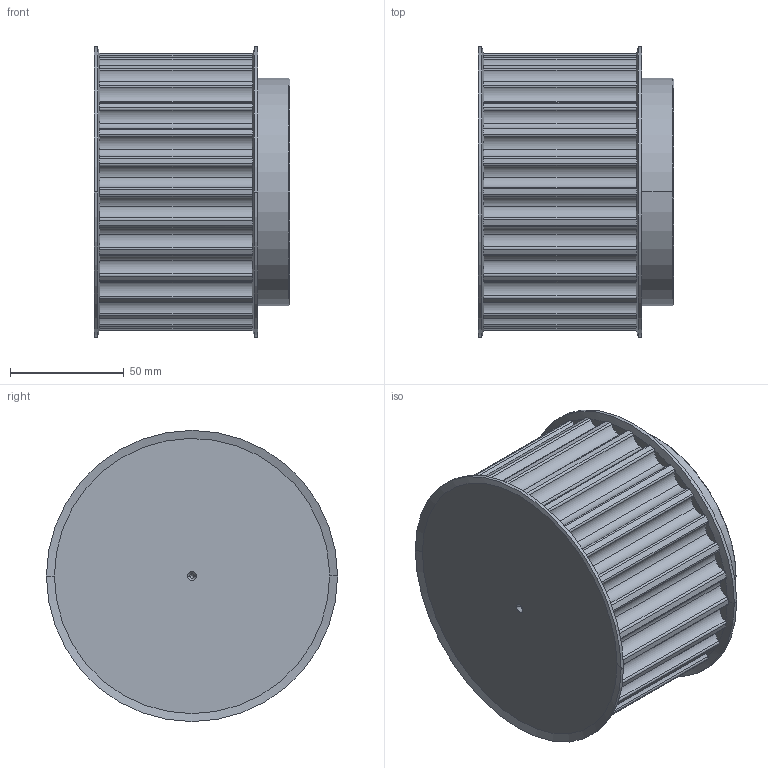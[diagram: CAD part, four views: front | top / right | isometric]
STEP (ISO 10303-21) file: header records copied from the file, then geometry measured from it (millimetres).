
FILE_DESCRIPTION(('STEP AP214'),'1');
FILE_NAME('28_-_14_m_55.stp','2018-06-06T15:30:37',('TraceParts'),('TraceParts S.A.'),'Spatial InterOp 3D',' ',' ');
FILE_SCHEMA(('automotive_design'));
Length unit declared in the file: millimetre
Products named in the file (1): 28_-_14_m_55
Bounding box: 85.94 x 128 x 128 mm (x, y, z)
Volume: 877616 mm3; surface area: 69136.3 mm2
Topology: 1 solids, 1 shells, 227 faces, 658 edges, 432 vertices
Faces by surface type: cylinder 150, plane 59, cone 18
Entity records: 8221 total; most frequent: CARTESIAN_POINT 2098, DIRECTION 1372, ORIENTED_EDGE 1308, EDGE_CURVE 654, AXIS2_PLACEMENT_3D 602, VERTEX_POINT 432, CIRCLE 374, EDGE_LOOP 230
